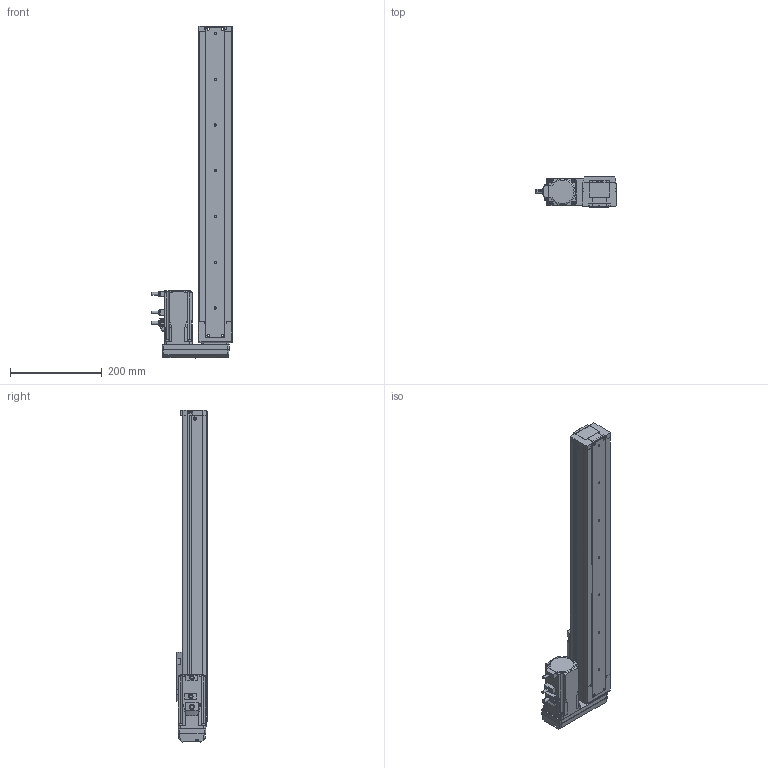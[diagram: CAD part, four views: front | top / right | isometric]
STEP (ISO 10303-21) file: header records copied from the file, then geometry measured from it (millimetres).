
FILE_DESCRIPTION (( 'STEP AP203' ), '1' );
FILE_NAME ('EZSM6RD050AZMK.step', '2015-06-29T11:15:34', ( 'om' ), ( 'Hewlett-Packard Company' ), 'SwSTEP 2.0', 'SolidWorks 2014', '' );
FILE_SCHEMA (( 'CONFIG_CONTROL_DESIGN' ));
Length unit declared in the file: millimetre
Products named in the file (4): EZSM6RD050AZMK_BASE; EZSM6RD050AZMK_Table; EZSM6RD050AZMK; EZSM6RD050AZMK_Motor
Assembly tree (3 placements, depth 2):
  EZSM6RD050AZMK
    EZSM6RD050AZMK_Motor
    EZSM6RD050AZMK_BASE
    EZSM6RD050AZMK_Table
Bounding box: 176 x 66.5 x 725.73 mm (x, y, z)
Volume: 3393457.3 mm3; surface area: 293463.8 mm2
Topology: 3 solids, 7 shells, 975 faces, 2415 edges, 1560 vertices
Faces by surface type: plane 628, cylinder 273, cone 44, torus 27, sphere 2, bspline 1
Entity records: 29706 total; most frequent: CARTESIAN_POINT 5691, DIRECTION 4937, ORIENTED_EDGE 4830, EDGE_CURVE 2415, LINE 1721, VECTOR 1721, AXIS2_PLACEMENT_3D 1608, VERTEX_POINT 1560
